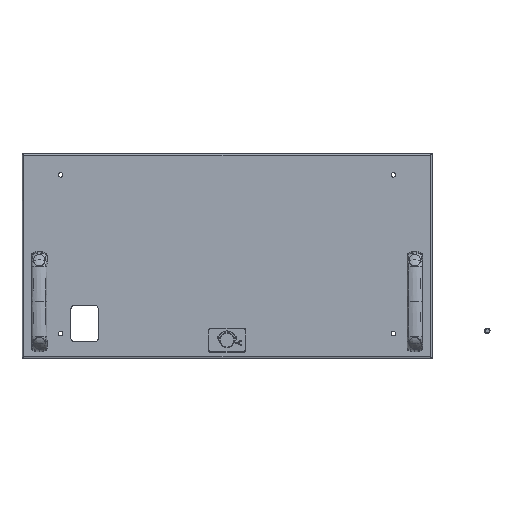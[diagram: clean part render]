
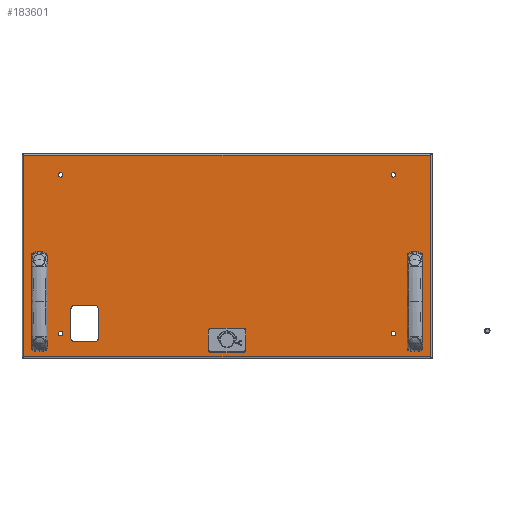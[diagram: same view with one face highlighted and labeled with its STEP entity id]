
A CAD part, top view. The second image highlights one B-rep face of the part: STEP entity #183601.
In plain terms, the highlighted planar face has unit normal (0, 0, 1).
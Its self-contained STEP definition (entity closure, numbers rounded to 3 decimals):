
#180886=CARTESIAN_POINT(' ',(591.7,294.7,0.));
#180891=DIRECTION(' ',(0.,-1.,0.));
#180896=VECTOR(' ',#180891,1.);
#180901=LINE('',#180886,#180896);
#180906=CARTESIAN_POINT(' ',(591.7,294.7,0.));
#180907=VERTEX_POINT(' ',#180906);
#180911=CARTESIAN_POINT(' ',(591.7,2.3,0.));
#180912=VERTEX_POINT(' ',#180911);
#180916=EDGE_CURVE(' ',#180907,#180912,#180901,.T.);
#182611=DIRECTION(' ',(-0.,-0.,1.));
#182616=CARTESIAN_POINT(' ',(591.7,2.3,0.));
#182621=DIRECTION(' ',(0.,1.,0.));
#182626=AXIS2_PLACEMENT_3D(' ',#182616,#182611,#182621);
#182631=PLANE('NONE',#182626);
#182636=CARTESIAN_POINT(' ',(2.3,2.3,0.));
#182641=DIRECTION(' ',(1.,0.,0.));
#182646=VECTOR(' ',#182641,1.);
#182651=LINE('',#182636,#182646);
#182656=CARTESIAN_POINT(' ',(2.3,2.3,0.));
#182657=VERTEX_POINT(' ',#182656);
#182661=EDGE_CURVE(' ',#182657,#180912,#182651,.T.);
#182666=ORIENTED_EDGE(' ',*,*,#182661,.T.);
#182671=ORIENTED_EDGE(' ',*,*,#180916,.F.);
#182676=CARTESIAN_POINT(' ',(591.7,294.7,0.));
#182681=DIRECTION(' ',(-1.,0.,0.));
#182686=VECTOR(' ',#182681,1.);
#182691=LINE('',#182676,#182686);
#182696=CARTESIAN_POINT(' ',(2.3,294.7,0.));
#182697=VERTEX_POINT(' ',#182696);
#182701=EDGE_CURVE(' ',#180907,#182697,#182691,.T.);
#182706=ORIENTED_EDGE(' ',*,*,#182701,.T.);
#182711=CARTESIAN_POINT(' ',(2.3,294.7,0.));
#182716=DIRECTION(' ',(0.,-1.,0.));
#182721=VECTOR(' ',#182716,1.);
#182726=LINE('',#182711,#182721);
#182731=EDGE_CURVE(' ',#182697,#182657,#182726,.T.);
#182736=ORIENTED_EDGE(' ',*,*,#182731,.T.);
#182741=EDGE_LOOP(' ',(#182666,#182671,#182706,#182736));
#182746=FACE_OUTER_BOUND(' ',#182741,.T.);
#182751=CARTESIAN_POINT(' ',(110.85,30.,0.));
#182756=DIRECTION(' ',(0.,1.,0.));
#182761=VECTOR(' ',#182756,1.);
#182766=LINE('',#182751,#182761);
#182771=CARTESIAN_POINT(' ',(110.85,30.,0.));
#182772=VERTEX_POINT(' ',#182771);
#182776=CARTESIAN_POINT(' ',(110.85,71.,0.));
#182777=VERTEX_POINT(' ',#182776);
#182781=EDGE_CURVE(' ',#182772,#182777,#182766,.T.);
#182786=ORIENTED_EDGE(' ',*,*,#182781,.F.);
#182791=CARTESIAN_POINT(' ',(104.85,30.,0.));
#182796=DIRECTION(' ',(0.,-0.,1.));
#182801=DIRECTION(' ',(0.,-1.,0.));
#182806=AXIS2_PLACEMENT_3D(' ',#182791,#182796,#182801);
#182811=CIRCLE('',#182806,6.);
#182816=CARTESIAN_POINT(' ',(104.85,24.,0.));
#182817=VERTEX_POINT(' ',#182816);
#182821=EDGE_CURVE(' ',#182817,#182772,#182811,.T.);
#182826=ORIENTED_EDGE(' ',*,*,#182821,.F.);
#182831=CARTESIAN_POINT(' ',(76.85,24.,0.));
#182836=DIRECTION(' ',(1.,0.,0.));
#182841=VECTOR(' ',#182836,1.);
#182846=LINE('',#182831,#182841);
#182851=CARTESIAN_POINT(' ',(76.85,24.,0.));
#182852=VERTEX_POINT(' ',#182851);
#182856=EDGE_CURVE(' ',#182852,#182817,#182846,.T.);
#182861=ORIENTED_EDGE(' ',*,*,#182856,.F.);
#182866=CARTESIAN_POINT(' ',(76.85,30.,0.));
#182871=DIRECTION(' ',(-0.,-0.,1.));
#182876=DIRECTION(' ',(-1.,0.,0.));
#182881=AXIS2_PLACEMENT_3D(' ',#182866,#182871,#182876);
#182886=CIRCLE('',#182881,6.);
#182891=CARTESIAN_POINT(' ',(70.85,30.,0.));
#182892=VERTEX_POINT(' ',#182891);
#182896=EDGE_CURVE(' ',#182892,#182852,#182886,.T.);
#182901=ORIENTED_EDGE(' ',*,*,#182896,.F.);
#182906=CARTESIAN_POINT(' ',(70.85,71.,0.));
#182911=DIRECTION(' ',(0.,-1.,0.));
#182916=VECTOR(' ',#182911,1.);
#182921=LINE('',#182906,#182916);
#182926=CARTESIAN_POINT(' ',(70.85,71.,0.));
#182927=VERTEX_POINT(' ',#182926);
#182931=EDGE_CURVE(' ',#182927,#182892,#182921,.T.);
#182936=ORIENTED_EDGE(' ',*,*,#182931,.F.);
#182941=CARTESIAN_POINT(' ',(76.85,71.,0.));
#182946=DIRECTION(' ',(0.,0.,1.));
#182951=DIRECTION(' ',(0.,1.,0.));
#182956=AXIS2_PLACEMENT_3D(' ',#182941,#182946,#182951);
#182961=CIRCLE('',#182956,6.);
#182966=CARTESIAN_POINT(' ',(76.85,77.,0.));
#182967=VERTEX_POINT(' ',#182966);
#182971=EDGE_CURVE(' ',#182967,#182927,#182961,.T.);
#182976=ORIENTED_EDGE(' ',*,*,#182971,.F.);
#182981=CARTESIAN_POINT(' ',(104.85,77.,0.));
#182986=DIRECTION(' ',(-1.,0.,0.));
#182991=VECTOR(' ',#182986,1.);
#182996=LINE('',#182981,#182991);
#183001=CARTESIAN_POINT(' ',(104.85,77.,0.));
#183002=VERTEX_POINT(' ',#183001);
#183006=EDGE_CURVE(' ',#183002,#182967,#182996,.T.);
#183011=ORIENTED_EDGE(' ',*,*,#183006,.F.);
#183016=CARTESIAN_POINT(' ',(104.85,71.,0.));
#183021=DIRECTION(' ',(0.,0.,1.));
#183026=DIRECTION(' ',(1.,0.,0.));
#183031=AXIS2_PLACEMENT_3D(' ',#183016,#183021,#183026);
#183036=CIRCLE('',#183031,6.);
#183041=EDGE_CURVE(' ',#182777,#183002,#183036,.T.);
#183046=ORIENTED_EDGE(' ',*,*,#183041,.F.);
#183051=EDGE_LOOP(' ',(#182786,#182826,#182861,#182901,#182936,#182976,#183011,#183046));
#183056=FACE_BOUND(' ',#183051,.T.);
#183061=CARTESIAN_POINT(' ',(569.,143.5,0.));
#183066=DIRECTION(' ',(0.,0.,-1.));
#183071=DIRECTION(' ',(-1.,0.,0.));
#183076=AXIS2_PLACEMENT_3D(' ',#183061,#183066,#183071);
#183081=CIRCLE('',#183076,3.75);
#183086=CARTESIAN_POINT(' ',(565.25,143.5,0.));
#183087=VERTEX_POINT(' ',#183086);
#183091=CARTESIAN_POINT(' ',(572.75,143.5,0.));
#183092=VERTEX_POINT(' ',#183091);
#183096=EDGE_CURVE(' ',#183087,#183092,#183081,.T.);
#183101=ORIENTED_EDGE(' ',*,*,#183096,.T.);
#183106=CARTESIAN_POINT(' ',(569.,143.5,0.));
#183111=DIRECTION(' ',(0.,0.,-1.));
#183116=DIRECTION(' ',(1.,0.,0.));
#183121=AXIS2_PLACEMENT_3D(' ',#183106,#183111,#183116);
#183126=CIRCLE('',#183121,3.75);
#183131=EDGE_CURVE(' ',#183092,#183087,#183126,.T.);
#183136=ORIENTED_EDGE(' ',*,*,#183131,.T.);
#183141=EDGE_LOOP(' ',(#183101,#183136));
#183146=FACE_BOUND(' ',#183141,.T.);
#183151=CARTESIAN_POINT(' ',(25.,143.5,0.));
#183156=DIRECTION(' ',(0.,0.,-1.));
#183161=DIRECTION(' ',(-1.,0.,0.));
#183166=AXIS2_PLACEMENT_3D(' ',#183151,#183156,#183161);
#183171=CIRCLE('',#183166,3.75);
#183176=CARTESIAN_POINT(' ',(21.25,143.5,0.));
#183177=VERTEX_POINT(' ',#183176);
#183181=CARTESIAN_POINT(' ',(28.75,143.5,0.));
#183182=VERTEX_POINT(' ',#183181);
#183186=EDGE_CURVE(' ',#183177,#183182,#183171,.T.);
#183191=ORIENTED_EDGE(' ',*,*,#183186,.T.);
#183196=CARTESIAN_POINT(' ',(25.,143.5,0.));
#183201=DIRECTION(' ',(0.,0.,-1.));
#183206=DIRECTION(' ',(1.,0.,0.));
#183211=AXIS2_PLACEMENT_3D(' ',#183196,#183201,#183206);
#183216=CIRCLE('',#183211,3.75);
#183221=EDGE_CURVE(' ',#183182,#183177,#183216,.T.);
#183226=ORIENTED_EDGE(' ',*,*,#183221,.T.);
#183231=EDGE_LOOP(' ',(#183191,#183226));
#183236=FACE_BOUND(' ',#183231,.T.);
#183241=CARTESIAN_POINT(' ',(538.,36.,0.));
#183246=DIRECTION(' ',(0.,0.,1.));
#183251=DIRECTION(' ',(1.,0.,0.));
#183256=AXIS2_PLACEMENT_3D(' ',#183241,#183246,#183251);
#183261=CIRCLE('',#183256,3.25);
#183266=CARTESIAN_POINT(' ',(541.25,36.,0.));
#183267=VERTEX_POINT(' ',#183266);
#183271=CARTESIAN_POINT(' ',(534.75,36.,0.));
#183272=VERTEX_POINT(' ',#183271);
#183276=EDGE_CURVE(' ',#183267,#183272,#183261,.T.);
#183281=ORIENTED_EDGE(' ',*,*,#183276,.F.);
#183286=CARTESIAN_POINT(' ',(538.,36.,0.));
#183291=DIRECTION(' ',(0.,-0.,1.));
#183296=DIRECTION(' ',(-1.,0.,0.));
#183301=AXIS2_PLACEMENT_3D(' ',#183286,#183291,#183296);
#183306=CIRCLE('',#183301,3.25);
#183311=EDGE_CURVE(' ',#183272,#183267,#183306,.T.);
#183316=ORIENTED_EDGE(' ',*,*,#183311,.F.);
#183321=EDGE_LOOP(' ',(#183281,#183316));
#183326=FACE_BOUND(' ',#183321,.T.);
#183331=CARTESIAN_POINT(' ',(538.,266.,0.));
#183336=DIRECTION(' ',(0.,0.,1.));
#183341=DIRECTION(' ',(1.,0.,0.));
#183346=AXIS2_PLACEMENT_3D(' ',#183331,#183336,#183341);
#183351=CIRCLE('',#183346,3.25);
#183356=CARTESIAN_POINT(' ',(541.25,266.,0.));
#183357=VERTEX_POINT(' ',#183356);
#183361=CARTESIAN_POINT(' ',(534.75,266.,0.));
#183362=VERTEX_POINT(' ',#183361);
#183366=EDGE_CURVE(' ',#183357,#183362,#183351,.T.);
#183371=ORIENTED_EDGE(' ',*,*,#183366,.F.);
#183376=CARTESIAN_POINT(' ',(538.,266.,0.));
#183381=DIRECTION(' ',(0.,-0.,1.));
#183386=DIRECTION(' ',(-1.,0.,0.));
#183391=AXIS2_PLACEMENT_3D(' ',#183376,#183381,#183386);
#183396=CIRCLE('',#183391,3.25);
#183401=EDGE_CURVE(' ',#183362,#183357,#183396,.T.);
#183406=ORIENTED_EDGE(' ',*,*,#183401,.F.);
#183411=EDGE_LOOP(' ',(#183371,#183406));
#183416=FACE_BOUND(' ',#183411,.T.);
#183421=CARTESIAN_POINT(' ',(56.,266.,0.));
#183426=DIRECTION(' ',(0.,0.,1.));
#183431=DIRECTION(' ',(1.,0.,0.));
#183436=AXIS2_PLACEMENT_3D(' ',#183421,#183426,#183431);
#183441=CIRCLE('',#183436,3.25);
#183446=CARTESIAN_POINT(' ',(59.25,266.,0.));
#183447=VERTEX_POINT(' ',#183446);
#183451=CARTESIAN_POINT(' ',(52.75,266.,0.));
#183452=VERTEX_POINT(' ',#183451);
#183456=EDGE_CURVE(' ',#183447,#183452,#183441,.T.);
#183461=ORIENTED_EDGE(' ',*,*,#183456,.F.);
#183466=CARTESIAN_POINT(' ',(56.,266.,0.));
#183471=DIRECTION(' ',(0.,-0.,1.));
#183476=DIRECTION(' ',(-1.,0.,0.));
#183481=AXIS2_PLACEMENT_3D(' ',#183466,#183471,#183476);
#183486=CIRCLE('',#183481,3.25);
#183491=EDGE_CURVE(' ',#183452,#183447,#183486,.T.);
#183496=ORIENTED_EDGE(' ',*,*,#183491,.F.);
#183501=EDGE_LOOP(' ',(#183461,#183496));
#183506=FACE_BOUND(' ',#183501,.T.);
#183511=CARTESIAN_POINT(' ',(56.,36.,0.));
#183516=DIRECTION(' ',(0.,0.,1.));
#183521=DIRECTION(' ',(1.,0.,0.));
#183526=AXIS2_PLACEMENT_3D(' ',#183511,#183516,#183521);
#183531=CIRCLE('',#183526,3.25);
#183536=CARTESIAN_POINT(' ',(59.25,36.,0.));
#183537=VERTEX_POINT(' ',#183536);
#183541=CARTESIAN_POINT(' ',(52.75,36.,0.));
#183542=VERTEX_POINT(' ',#183541);
#183546=EDGE_CURVE(' ',#183537,#183542,#183531,.T.);
#183551=ORIENTED_EDGE(' ',*,*,#183546,.F.);
#183556=CARTESIAN_POINT(' ',(56.,36.,0.));
#183561=DIRECTION(' ',(0.,-0.,1.));
#183566=DIRECTION(' ',(-1.,0.,0.));
#183571=AXIS2_PLACEMENT_3D(' ',#183556,#183561,#183566);
#183576=CIRCLE('',#183571,3.25);
#183581=EDGE_CURVE(' ',#183542,#183537,#183576,.T.);
#183586=ORIENTED_EDGE(' ',*,*,#183581,.F.);
#183591=EDGE_LOOP(' ',(#183551,#183586));
#183596=FACE_BOUND(' ',#183591,.T.);
#183601=ADVANCED_FACE('NONE',(#182746,#183056,#183146,#183236,#183326,#183416,#183506,#183596),#182631,.T.);
